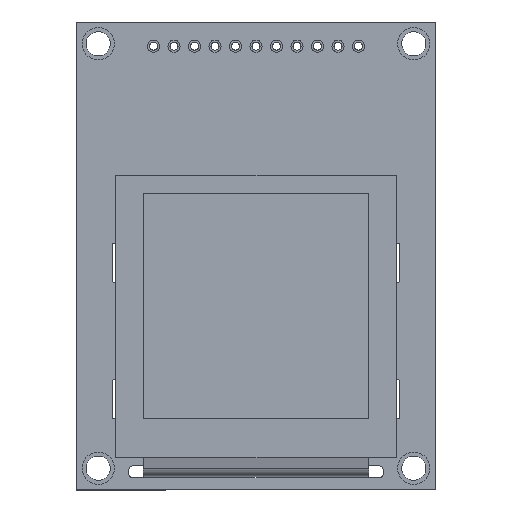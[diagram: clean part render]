
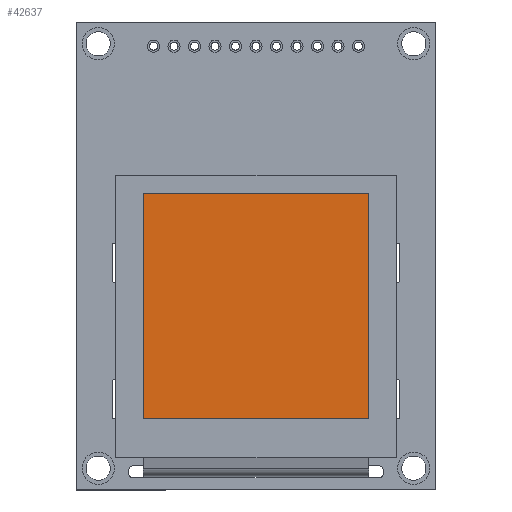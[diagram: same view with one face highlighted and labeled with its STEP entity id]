
A CAD part, top view. The second image highlights one B-rep face of the part: STEP entity #42637.
In plain terms, the highlighted planar face has unit normal (0, 0, 1).
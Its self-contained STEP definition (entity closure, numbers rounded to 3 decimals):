
#5488 = ORIENTED_EDGE ( 'NONE', *, *, #51874, .T. ) ;
#9228 = ORIENTED_EDGE ( 'NONE', *, *, #44866, .T. ) ;
#12029 = VECTOR ( 'NONE', #56468, 1000. ) ;
#16454 = CARTESIAN_POINT ( 'NONE',  ( 14., -20.2, 2.8 ) ) ;
#17133 = CARTESIAN_POINT ( 'NONE',  ( 0., 0., 2.8 ) ) ;
#17670 = CARTESIAN_POINT ( 'NONE',  ( -14., -20.2, 2.8 ) ) ;
#20087 = VERTEX_POINT ( 'NONE', #47705 ) ;
#22989 = PLANE ( 'NONE',  #74922 ) ;
#23234 = DIRECTION ( 'NONE',  ( 1., 0., 0. ) ) ;
#28322 = VECTOR ( 'NONE', #64668, 1000. ) ;
#39067 = CARTESIAN_POINT ( 'NONE',  ( 14., 7.8, 2.8 ) ) ;
#42637 = ADVANCED_FACE ( 'NONE', ( #55639 ), #22989, .T. ) ;
#44546 = VERTEX_POINT ( 'NONE', #17670 ) ;
#44866 = EDGE_CURVE ( 'NONE', #44546, #73064, #61842, .T. ) ;
#45135 = DIRECTION ( 'NONE',  ( -1., 0., 0. ) ) ;
#46225 = LINE ( 'NONE', #16454, #28322 ) ;
#47705 = CARTESIAN_POINT ( 'NONE',  ( -14., 7.8, 2.8 ) ) ;
#50398 = CARTESIAN_POINT ( 'NONE',  ( -14., -20.2, 2.8 ) ) ;
#51069 = CARTESIAN_POINT ( 'NONE',  ( 14., -20.2, 2.8 ) ) ;
#51874 = EDGE_CURVE ( 'NONE', #64233, #20087, #71450, .T. ) ;
#55639 = FACE_OUTER_BOUND ( 'NONE', #61878, .T. ) ;
#56468 = DIRECTION ( 'NONE',  ( 0., -1., 0. ) ) ;
#57140 = ORIENTED_EDGE ( 'NONE', *, *, #68505, .T. ) ;
#58974 = CARTESIAN_POINT ( 'NONE',  ( 14., 7.8, 2.8 ) ) ;
#59281 = DIRECTION ( 'NONE',  ( 0., 0., 1. ) ) ;
#59937 = VECTOR ( 'NONE', #69268, 1000. ) ;
#60089 = LINE ( 'NONE', #50398, #12029 ) ;
#61842 = LINE ( 'NONE', #51069, #59937 ) ;
#61878 = EDGE_LOOP ( 'NONE', ( #57140, #9228, #76613, #5488 ) ) ;
#64233 = VERTEX_POINT ( 'NONE', #58974 ) ;
#64668 = DIRECTION ( 'NONE',  ( 0., 1., 0. ) ) ;
#68505 = EDGE_CURVE ( 'NONE', #20087, #44546, #60089, .T. ) ;
#69268 = DIRECTION ( 'NONE',  ( 1., 0., 0. ) ) ;
#69578 = VECTOR ( 'NONE', #45135, 1000. ) ;
#71450 = LINE ( 'NONE', #39067, #69578 ) ;
#73064 = VERTEX_POINT ( 'NONE', #74806 ) ;
#74806 = CARTESIAN_POINT ( 'NONE',  ( 14., -20.2, 2.8 ) ) ;
#74922 = AXIS2_PLACEMENT_3D ( 'NONE', #17133, #59281, #23234 ) ;
#76613 = ORIENTED_EDGE ( 'NONE', *, *, #77263, .T. ) ;
#77263 = EDGE_CURVE ( 'NONE', #73064, #64233, #46225, .T. ) ;
